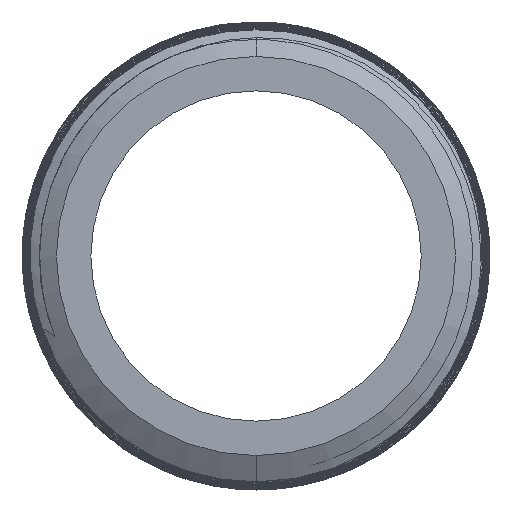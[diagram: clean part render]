
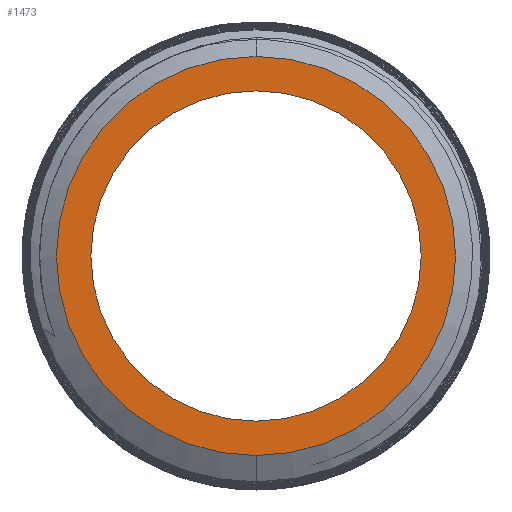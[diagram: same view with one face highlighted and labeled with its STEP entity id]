
A CAD part, left-side view. The second image highlights one B-rep face of the part: STEP entity #1473.
In plain terms, the highlighted planar face has unit normal (-1, 0, 0).
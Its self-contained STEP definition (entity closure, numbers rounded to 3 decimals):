
#126 = DIRECTION ( 'NONE',  ( 0., 0., 1. ) ) ;
#310 = EDGE_LOOP ( 'NONE', ( #2642, #1786 ) ) ;
#432 = CARTESIAN_POINT ( 'NONE',  ( -45., 0., -3.6 ) ) ;
#435 = EDGE_CURVE ( 'NONE', #6775, #709, #5050, .T. ) ;
#660 = DIRECTION ( 'NONE',  ( -1., 0., 0. ) ) ;
#709 = VERTEX_POINT ( 'NONE', #1804 ) ;
#1034 = CARTESIAN_POINT ( 'NONE',  ( -45., 0., 4.35 ) ) ;
#1046 = CARTESIAN_POINT ( 'NONE',  ( -45., 0., 0. ) ) ;
#1055 = DIRECTION ( 'NONE',  ( -1., 0., 0. ) ) ;
#1274 = VERTEX_POINT ( 'NONE', #5958 ) ;
#1473 = ADVANCED_FACE ( 'NONE', ( #6740, #4054 ), #4569, .F. ) ;
#1667 = EDGE_CURVE ( 'NONE', #1274, #2134, #5507, .T. ) ;
#1786 = ORIENTED_EDGE ( 'NONE', *, *, #435, .F. ) ;
#1804 = CARTESIAN_POINT ( 'NONE',  ( -45., 0., 3.6 ) ) ;
#1932 = AXIS2_PLACEMENT_3D ( 'NONE', #5167, #5723, #6243 ) ;
#2064 = DIRECTION ( 'NONE',  ( 0., 0., 1. ) ) ;
#2134 = VERTEX_POINT ( 'NONE', #1034 ) ;
#2203 = DIRECTION ( 'NONE',  ( 0., 0., 1. ) ) ;
#2212 = ORIENTED_EDGE ( 'NONE', *, *, #5413, .T. ) ;
#2335 = DIRECTION ( 'NONE',  ( 0., 0., 1. ) ) ;
#2342 = AXIS2_PLACEMENT_3D ( 'NONE', #5962, #660, #2335 ) ;
#2471 = EDGE_CURVE ( 'NONE', #709, #6775, #2583, .T. ) ;
#2583 = CIRCLE ( 'NONE', #5922, 3.6 ) ;
#2642 = ORIENTED_EDGE ( 'NONE', *, *, #2471, .F. ) ;
#3749 = DIRECTION ( 'NONE',  ( -1., 0., 0. ) ) ;
#4053 = AXIS2_PLACEMENT_3D ( 'NONE', #1046, #3749, #2203 ) ;
#4054 = FACE_OUTER_BOUND ( 'NONE', #5593, .T. ) ;
#4569 = PLANE ( 'NONE',  #1932 ) ;
#4861 = CARTESIAN_POINT ( 'NONE',  ( -45., 0., 0. ) ) ;
#5050 = CIRCLE ( 'NONE', #6830, 3.6 ) ;
#5167 = CARTESIAN_POINT ( 'NONE',  ( -45., 3.6, 0. ) ) ;
#5413 = EDGE_CURVE ( 'NONE', #2134, #1274, #5572, .T. ) ;
#5507 = CIRCLE ( 'NONE', #4053, 4.35 ) ;
#5572 = CIRCLE ( 'NONE', #2342, 4.35 ) ;
#5593 = EDGE_LOOP ( 'NONE', ( #6290, #2212 ) ) ;
#5723 = DIRECTION ( 'NONE',  ( 1., 0., 0. ) ) ;
#5729 = CARTESIAN_POINT ( 'NONE',  ( -45., 0., 0. ) ) ;
#5794 = DIRECTION ( 'NONE',  ( -1., 0., 0. ) ) ;
#5922 = AXIS2_PLACEMENT_3D ( 'NONE', #4861, #1055, #126 ) ;
#5958 = CARTESIAN_POINT ( 'NONE',  ( -45., 0., -4.35 ) ) ;
#5962 = CARTESIAN_POINT ( 'NONE',  ( -45., 0., 0. ) ) ;
#6243 = DIRECTION ( 'NONE',  ( 0., 0., -1. ) ) ;
#6290 = ORIENTED_EDGE ( 'NONE', *, *, #1667, .T. ) ;
#6740 = FACE_BOUND ( 'NONE', #310, .T. ) ;
#6775 = VERTEX_POINT ( 'NONE', #432 ) ;
#6830 = AXIS2_PLACEMENT_3D ( 'NONE', #5729, #5794, #2064 ) ;
